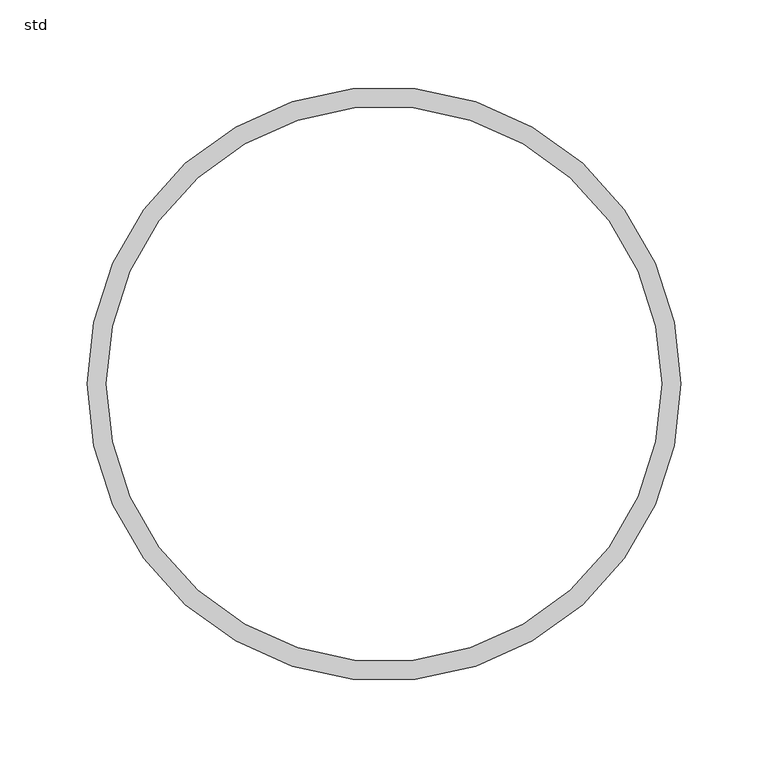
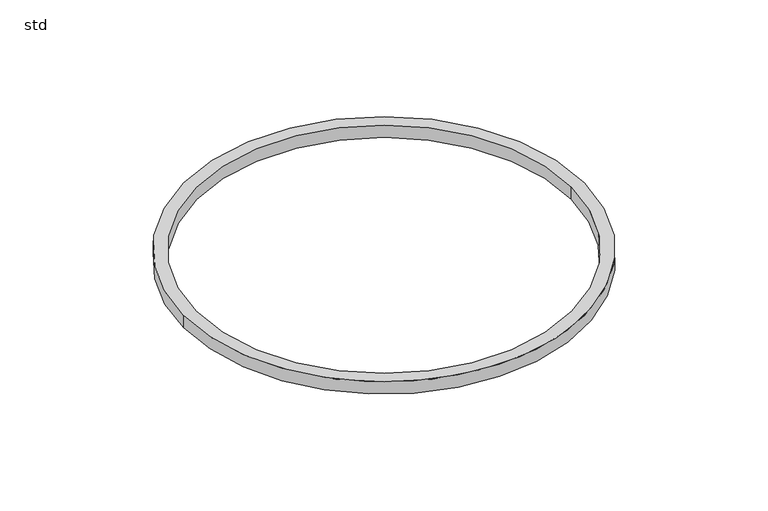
"""IFC4 building model written with IfcOpenShell, lengths in millimetres: pipe fitting geometry, NLRS_52_PIF_WPB_Ultra Kyma dichtingsring SH_Dyka : std."""

from ifc_helpers import new_model, si_unit, point, origin, origin_with_axes, origin_2d, place, context, project, spatial, circle_curve, trimmed, segment, composite_curve, outline, extrude, source, transform, mapped, element, save


def std_358442b3(model_context):
    return source(origin(), model_context, "Body", "SweptSolid", [
        extrude(outline(composite_curve([segment(trimmed(circle_curve(origin_2d(), 170.0), [point((-170.0, 0.0))], [point((170.0, 0.0))], False, "CARTESIAN"), True, "CONTINUOUS"), segment(trimmed(circle_curve(origin_2d(), 170.0), [point((170.0, 0.0))], [point((-170.0, 0.0))], False, "CARTESIAN"), True, "CONTINUOUS")], self_intersect=False), holes=[composite_curve([segment(trimmed(circle_curve(origin_2d(), 159.0), [point((159.0, 0.0))], [point((-159.0, 0.0))], True, "CARTESIAN"), True, "CONTINUOUS"), segment(trimmed(circle_curve(origin_2d(), 159.0), [point((-159.0, 0.0))], [point((159.0, 0.0))], True, "CARTESIAN"), True, "CONTINUOUS")], self_intersect=False)]), origin_with_axes(), (0.0, 0.0, 1.0), 11.0),
    ])


if __name__ == "__main__":
    model = new_model("IFC4")
    model_context = context("Model", 3, world=origin())
    ifc_project = project(units=[si_unit("LENGTHUNIT", "METRE", prefix="MILLI")], contexts=[model_context])
    site = spatial("IfcSite", under=ifc_project)
    building = spatial("IfcBuilding", under=site)
    placement = place(None, origin())
    std_shape = std_358442b3(model_context)
    element("IfcPipeFitting", 1, ObjectType="NLRS_52_PIF_WPB_Ultra Kyma dichtingsring SH_Dyka : std", at=placement, inside=building, context=model_context, shape_type="MappedRepresentation", body=[
        mapped(std_shape, transform((0.0, 0.0, 0.0), x_axis=(1.0, 0.0, 0.0), y_axis=(0.0, 1.0, 0.0), z_axis=(0.0, 0.0, 1.0))),
    ])
    save(model, "model.ifc")
